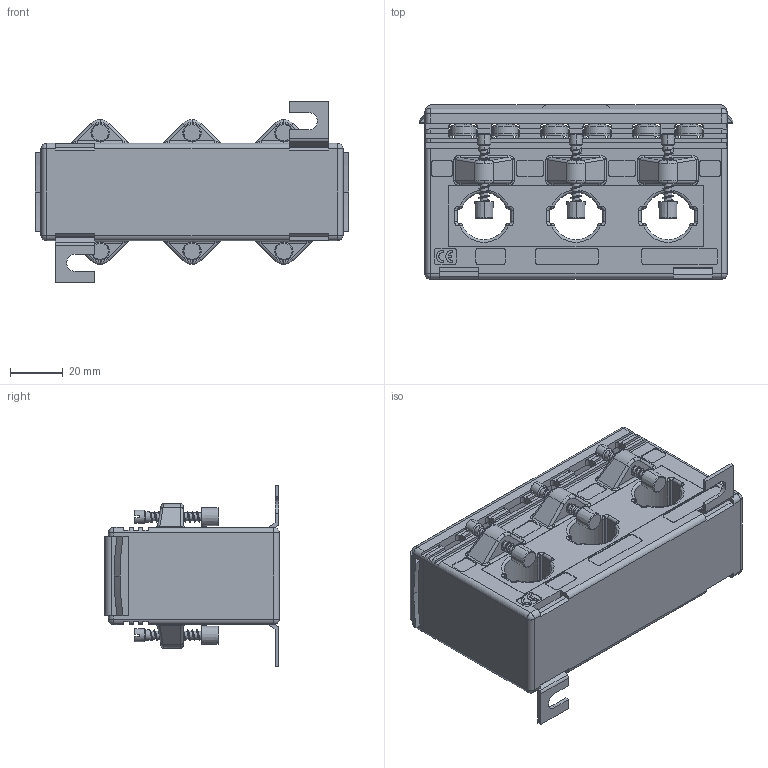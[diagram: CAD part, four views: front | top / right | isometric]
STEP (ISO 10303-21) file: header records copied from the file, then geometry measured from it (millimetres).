
FILE_DESCRIPTION (( 'STEP AP214' ), '1' );
FILE_NAME ('ASRD205.37_kpl.STEP', '2012-06-06T10:32:19', ( ' ' ), ( '' ), 'SwSTEP 2.0', 'SolidWorks 2011', '' );
FILE_SCHEMA (( 'AUTOMOTIVE_DESIGN' ));
Length unit declared in the file: millimetre
Products named in the file (1): ASRD205.37_kpl
Bounding box: 119.5 x 66.4 x 69 mm (x, y, z)
Volume: 226130.3 mm3; surface area: 72260 mm2
Topology: 47 solids, 47 shells, 1898 faces, 4680 edges, 2864 vertices
Faces by surface type: plane 932, cylinder 652, cone 106, bspline 72, torus 72, sphere 64
Entity records: 94914 total; most frequent: CARTESIAN_POINT 29481, ORIENTED_EDGE 9272, DIRECTION 9230, EDGE_CURVE 4636, AXIS2_PLACEMENT_3D 3287, VERTEX_POINT 2864, LINE 2656, VECTOR 2656
